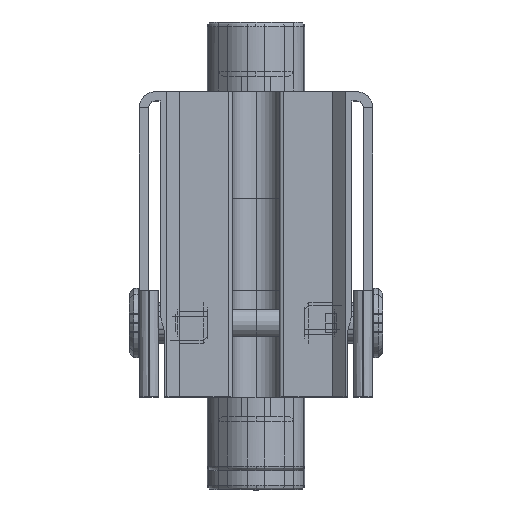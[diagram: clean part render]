
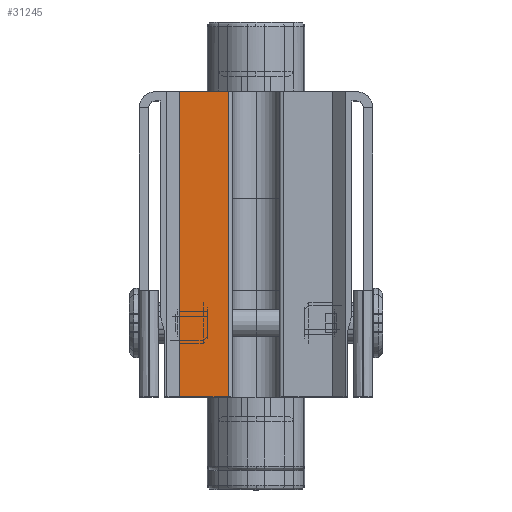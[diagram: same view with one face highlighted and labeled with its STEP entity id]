
A CAD part, top view. The second image highlights one B-rep face of the part: STEP entity #31245.
In plain terms, the highlighted planar face has unit normal (0, 0, 1).
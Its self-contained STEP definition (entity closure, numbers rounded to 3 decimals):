
#624 = FACE_OUTER_BOUND ( 'NONE', #53474, .T. ) ;
#732 = DIRECTION ( 'NONE',  ( -1., 0., 0. ) ) ;
#4706 = LINE ( 'NONE', #42576, #56044 ) ;
#5956 = CARTESIAN_POINT ( 'NONE',  ( 8323.45, -6442., 369.446 ) ) ;
#11423 = EDGE_CURVE ( 'NONE', #20478, #52291, #34774, .T. ) ;
#13740 = CARTESIAN_POINT ( 'NONE',  ( 8323.45, -6508., 369.446 ) ) ;
#14791 = ORIENTED_EDGE ( 'NONE', *, *, #54732, .T. ) ;
#16576 = AXIS2_PLACEMENT_3D ( 'NONE', #16650, #20613, #34845 ) ;
#16650 = CARTESIAN_POINT ( 'NONE',  ( 8368.25, -6442., 369.446 ) ) ;
#18046 = EDGE_CURVE ( 'NONE', #52291, #41750, #4706, .T. ) ;
#18089 = ORIENTED_EDGE ( 'NONE', *, *, #44417, .T. ) ;
#20478 = VERTEX_POINT ( 'NONE', #55757 ) ;
#20613 = DIRECTION ( 'NONE',  ( 0., 0., 1. ) ) ;
#23554 = LINE ( 'NONE', #5956, #40097 ) ;
#25670 = CARTESIAN_POINT ( 'NONE',  ( 8334., -6442., 369.446 ) ) ;
#26206 = VERTEX_POINT ( 'NONE', #41281 ) ;
#27745 = CARTESIAN_POINT ( 'NONE',  ( 8368.25, -6442., 369.446 ) ) ;
#28640 = ORIENTED_EDGE ( 'NONE', *, *, #11423, .F. ) ;
#31245 = ADVANCED_FACE ( 'NONE', ( #624 ), #37616, .T. ) ;
#33245 = DIRECTION ( 'NONE',  ( 0., -1., 0. ) ) ;
#34774 = LINE ( 'NONE', #25670, #57900 ) ;
#34845 = DIRECTION ( 'NONE',  ( 0., -1., 0. ) ) ;
#37169 = LINE ( 'NONE', #27745, #55495 ) ;
#37616 = PLANE ( 'NONE',  #16576 ) ;
#39941 = DIRECTION ( 'NONE',  ( 0., -1., 0. ) ) ;
#40097 = VECTOR ( 'NONE', #33245, 1000. ) ;
#41281 = CARTESIAN_POINT ( 'NONE',  ( 8323.45, -6442., 369.446 ) ) ;
#41750 = VERTEX_POINT ( 'NONE', #13740 ) ;
#42576 = CARTESIAN_POINT ( 'NONE',  ( 8368.25, -6508., 369.446 ) ) ;
#44417 = EDGE_CURVE ( 'NONE', #20478, #26206, #37169, .T. ) ;
#48177 = ORIENTED_EDGE ( 'NONE', *, *, #18046, .F. ) ;
#52291 = VERTEX_POINT ( 'NONE', #58217 ) ;
#53474 = EDGE_LOOP ( 'NONE', ( #48177, #28640, #18089, #14791 ) ) ;
#54732 = EDGE_CURVE ( 'NONE', #26206, #41750, #23554, .T. ) ;
#55495 = VECTOR ( 'NONE', #55690, 1000. ) ;
#55690 = DIRECTION ( 'NONE',  ( -1., 0., 0. ) ) ;
#55757 = CARTESIAN_POINT ( 'NONE',  ( 8334., -6442., 369.446 ) ) ;
#56044 = VECTOR ( 'NONE', #732, 1000. ) ;
#57900 = VECTOR ( 'NONE', #39941, 1000. ) ;
#58217 = CARTESIAN_POINT ( 'NONE',  ( 8334., -6508., 369.446 ) ) ;
